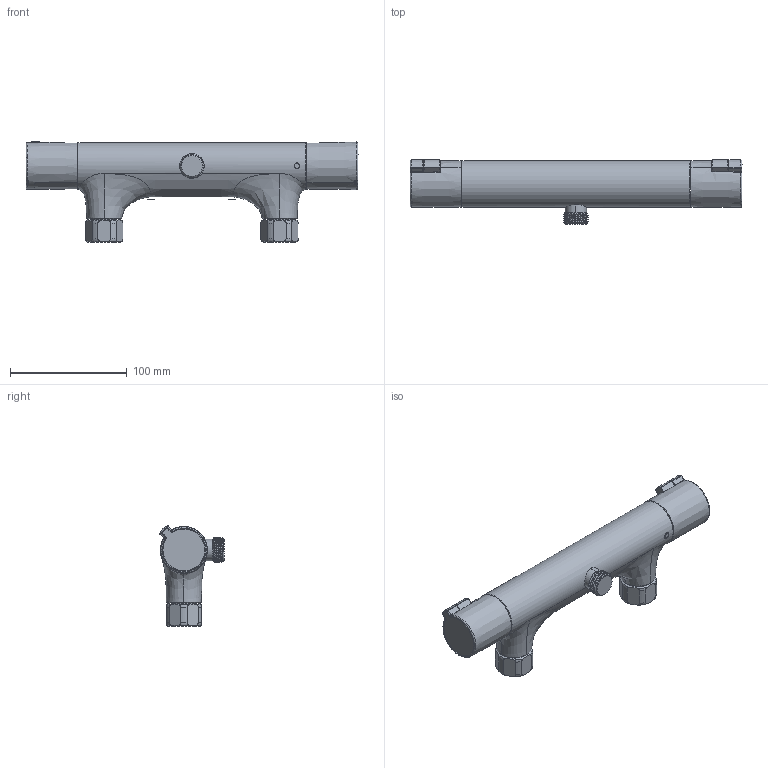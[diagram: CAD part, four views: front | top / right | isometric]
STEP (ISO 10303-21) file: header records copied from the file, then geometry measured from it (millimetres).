
FILE_DESCRIPTION((''),'2;1');
FILE_NAME('57450--','2026-10-14T11:21:46',('simi1'),(''),'CREO PARAMETRIC BY PTC INC, 2022244','CREO PARAMETRIC BY PTC INC, 2022244','');
FILE_SCHEMA(('CONFIG_CONTROL_DESIGN'));
Length unit declared in the file: millimetre
Products named in the file (1): 57450--
Bounding box: 284.15 x 55.13 x 85.83 mm (x, y, z)
Surface area: 60271.7 mm2 (no closed solid volume)
Topology: 0 solids, 76 shells, 447 faces, 2205 edges, 1819 vertices
Faces by surface type: plane 165, cylinder 85, bspline 75, torus 70, cone 41, sphere 10, extrusion 1
Entity records: 29311 total; most frequent: CARTESIAN_POINT 13216, ORIENTED_EDGE 3011, DIRECTION 2926, EDGE_CURVE 2205, VERTEX_POINT 1819, VECTOR 1354, LINE 1353, AXIS2_PLACEMENT_3D 786
